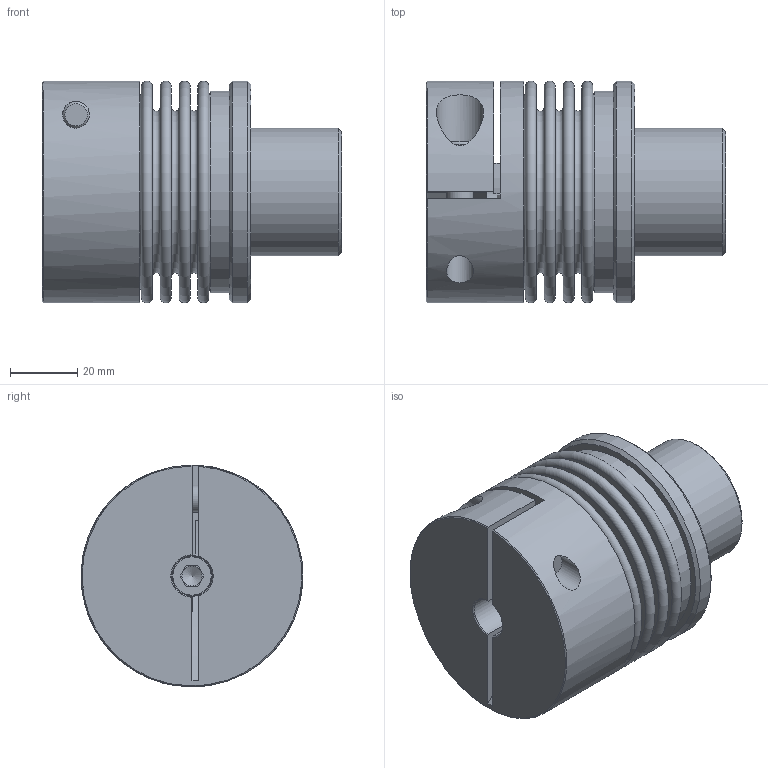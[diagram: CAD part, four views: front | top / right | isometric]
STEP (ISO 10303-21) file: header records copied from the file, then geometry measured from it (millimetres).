
FILE_DESCRIPTION( ( 'Unknown' ), '1' );
FILE_NAME( 'K:/Konstruktion/KB8/HP/KB8-60-62.stp', 'Unknown', ( 'Unknown' ), ( 'Unknown' ), 'PSStep 16.0.42', 'Unknown', ' ' );
FILE_SCHEMA( ( 'AUTOMOTIVE_DESIGN { 1 0 10303 214 1 1 1 1 }' ) );
Length unit declared in the file: millimetre
Products named in the file (5): Assem1; BK60_Standard_0; KN60_N24; Socket Head Cap Screw_DIN_DIN 912 M8 x 25 --- 25N_1; Spreiznabe60
Assembly tree (5 placements, depth 2):
  Assem1
    BK60_Standard_0
    KN60_N24
    Socket Head Cap Screw_DIN_DIN 912 M8 x 25 --- 25N_1  x2
    Spreiznabe60
Bounding box: 89 x 66 x 66 mm (x, y, z)
Volume: 167365.3 mm3; surface area: 65085.3 mm2
Topology: 5 solids, 5 shells, 111 faces, 224 edges, 143 vertices
Faces by surface type: plane 62, torus 20, cylinder 19, cone 10
Full cylindrical faces by diameter (mm): 8 x3, 8.5 x1, 12 x1, 13 x2, 14 x1, 38 x1, 56.3 x2, 57.3 x2, 60 x1, 66 x2
Entity records: 3117 total; most frequent: CARTESIAN_POINT 524, DIRECTION 401, ORIENTED_EDGE 268, AXIS2_PLACEMENT_3D 178, EDGE_LOOP 154, EDGE_CURVE 134, FACE_OUTER_BOUND 122, VERTEX_POINT 117
